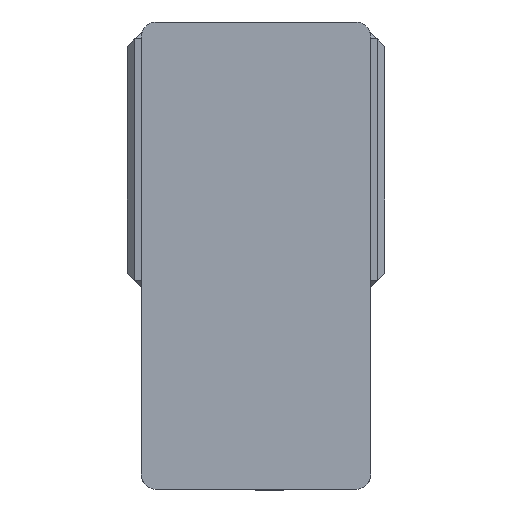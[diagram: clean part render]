
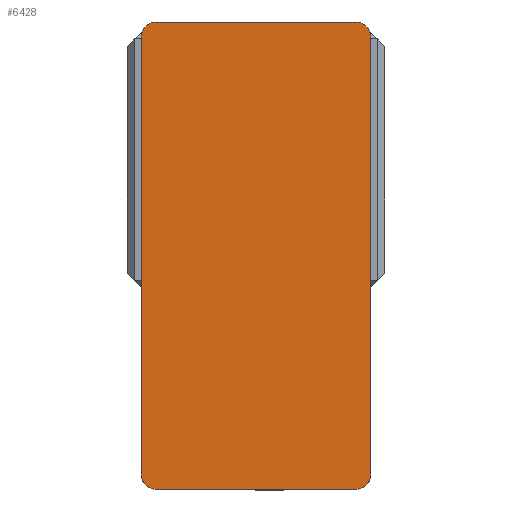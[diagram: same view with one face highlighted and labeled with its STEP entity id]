
A CAD part, left-side view. The second image highlights one B-rep face of the part: STEP entity #6428.
In plain terms, the highlighted planar face has unit normal (-1, 0, 0) as drawn and (0, 0, 1) by its records, which use the part's own axes.
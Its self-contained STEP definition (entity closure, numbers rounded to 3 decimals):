
#257 = EDGE_LOOP ( 'NONE', ( #4371, #3340, #6770, #9923, #4016, #7202, #1257, #2090 ) ) ;
#320 = DIRECTION ( 'NONE',  ( 0., 0., 1. ) ) ;
#383 = CIRCLE ( 'NONE', #4482, 10. ) ;
#1017 = CARTESIAN_POINT ( 'NONE',  ( 65., 152.5, 105. ) ) ;
#1067 = CARTESIAN_POINT ( 'NONE',  ( 65., -142.5, 105. ) ) ;
#1197 = DIRECTION ( 'NONE',  ( 0., 0., 1. ) ) ;
#1257 = ORIENTED_EDGE ( 'NONE', *, *, #10921, .T. ) ;
#1538 = CARTESIAN_POINT ( 'NONE',  ( -65., -142.5, 105. ) ) ;
#1801 = CARTESIAN_POINT ( 'NONE',  ( -75., 142.5, 105. ) ) ;
#1969 = DIRECTION ( 'NONE',  ( 1., 0., 0. ) ) ;
#2090 = ORIENTED_EDGE ( 'NONE', *, *, #2691, .T. ) ;
#2128 = VERTEX_POINT ( 'NONE', #9301 ) ;
#2233 = LINE ( 'NONE', #4830, #6658 ) ;
#2246 = CARTESIAN_POINT ( 'NONE',  ( -75., 152.5, 105. ) ) ;
#2271 = VERTEX_POINT ( 'NONE', #1801 ) ;
#2413 = DIRECTION ( 'NONE',  ( 1., 0., 0. ) ) ;
#2476 = CIRCLE ( 'NONE', #6545, 10. ) ;
#2650 = VERTEX_POINT ( 'NONE', #11056 ) ;
#2691 = EDGE_CURVE ( 'NONE', #2128, #6273, #383, .T. ) ;
#2963 = CARTESIAN_POINT ( 'NONE',  ( 65., -152.5, 105. ) ) ;
#2964 = VERTEX_POINT ( 'NONE', #1017 ) ;
#3270 = EDGE_CURVE ( 'NONE', #8559, #2271, #6867, .T. ) ;
#3311 = AXIS2_PLACEMENT_3D ( 'NONE', #9767, #4504, #10654 ) ;
#3340 = ORIENTED_EDGE ( 'NONE', *, *, #5636, .T. ) ;
#3567 = DIRECTION ( 'NONE',  ( 0., 1., 0. ) ) ;
#3744 = VECTOR ( 'NONE', #6248, 1000. ) ;
#3751 = AXIS2_PLACEMENT_3D ( 'NONE', #6498, #1197, #7362 ) ;
#3966 = VECTOR ( 'NONE', #3567, 1000. ) ;
#4009 = LINE ( 'NONE', #10576, #3744 ) ;
#4016 = ORIENTED_EDGE ( 'NONE', *, *, #4814, .T. ) ;
#4106 = FACE_OUTER_BOUND ( 'NONE', #257, .T. ) ;
#4113 = CARTESIAN_POINT ( 'NONE',  ( -65., 152.5, 105. ) ) ;
#4371 = ORIENTED_EDGE ( 'NONE', *, *, #7389, .T. ) ;
#4482 = AXIS2_PLACEMENT_3D ( 'NONE', #1538, #7686, #2413 ) ;
#4504 = DIRECTION ( 'NONE',  ( 0., 0., 1. ) ) ;
#4715 = PLANE ( 'NONE',  #3751 ) ;
#4814 = EDGE_CURVE ( 'NONE', #2964, #8559, #4009, .T. ) ;
#4830 = CARTESIAN_POINT ( 'NONE',  ( -75., -152.5, 105. ) ) ;
#5041 = EDGE_CURVE ( 'NONE', #2650, #2964, #8536, .T. ) ;
#5619 = CARTESIAN_POINT ( 'NONE',  ( 75., -142.5, 105. ) ) ;
#5627 = CARTESIAN_POINT ( 'NONE',  ( 65., 142.5, 105. ) ) ;
#5636 = EDGE_CURVE ( 'NONE', #8380, #7298, #2476, .T. ) ;
#5883 = LINE ( 'NONE', #2246, #10529 ) ;
#6248 = DIRECTION ( 'NONE',  ( -1., 0., 0. ) ) ;
#6273 = VERTEX_POINT ( 'NONE', #8032 ) ;
#6428 = ADVANCED_FACE ( 'NONE', ( #4106 ), #4715, .T. ) ;
#6498 = CARTESIAN_POINT ( 'NONE',  ( 0., 0., 105. ) ) ;
#6522 = DIRECTION ( 'NONE',  ( 1., 0., 0. ) ) ;
#6545 = AXIS2_PLACEMENT_3D ( 'NONE', #1067, #7243, #1969 ) ;
#6591 = LINE ( 'NONE', #9691, #3966 ) ;
#6658 = VECTOR ( 'NONE', #10050, 1000. ) ;
#6770 = ORIENTED_EDGE ( 'NONE', *, *, #10103, .T. ) ;
#6867 = CIRCLE ( 'NONE', #3311, 10. ) ;
#7202 = ORIENTED_EDGE ( 'NONE', *, *, #3270, .T. ) ;
#7243 = DIRECTION ( 'NONE',  ( 0., 0., 1. ) ) ;
#7298 = VERTEX_POINT ( 'NONE', #5619 ) ;
#7362 = DIRECTION ( 'NONE',  ( 1., 0., 0. ) ) ;
#7389 = EDGE_CURVE ( 'NONE', #6273, #8380, #2233, .T. ) ;
#7522 = DIRECTION ( 'NONE',  ( 0., -1., 0. ) ) ;
#7686 = DIRECTION ( 'NONE',  ( 0., 0., 1. ) ) ;
#8032 = CARTESIAN_POINT ( 'NONE',  ( -65., -152.5, 105. ) ) ;
#8355 = AXIS2_PLACEMENT_3D ( 'NONE', #5627, #320, #6522 ) ;
#8380 = VERTEX_POINT ( 'NONE', #2963 ) ;
#8536 = CIRCLE ( 'NONE', #8355, 10. ) ;
#8559 = VERTEX_POINT ( 'NONE', #4113 ) ;
#9301 = CARTESIAN_POINT ( 'NONE',  ( -75., -142.5, 105. ) ) ;
#9691 = CARTESIAN_POINT ( 'NONE',  ( 75., 152.5, 105. ) ) ;
#9767 = CARTESIAN_POINT ( 'NONE',  ( -65., 142.5, 105. ) ) ;
#9923 = ORIENTED_EDGE ( 'NONE', *, *, #5041, .T. ) ;
#10050 = DIRECTION ( 'NONE',  ( 1., 0., 0. ) ) ;
#10103 = EDGE_CURVE ( 'NONE', #7298, #2650, #6591, .T. ) ;
#10529 = VECTOR ( 'NONE', #7522, 1000. ) ;
#10576 = CARTESIAN_POINT ( 'NONE',  ( -75., 152.5, 105. ) ) ;
#10654 = DIRECTION ( 'NONE',  ( 1., 0., 0. ) ) ;
#10921 = EDGE_CURVE ( 'NONE', #2271, #2128, #5883, .T. ) ;
#11056 = CARTESIAN_POINT ( 'NONE',  ( 75., 142.5, 105. ) ) ;
